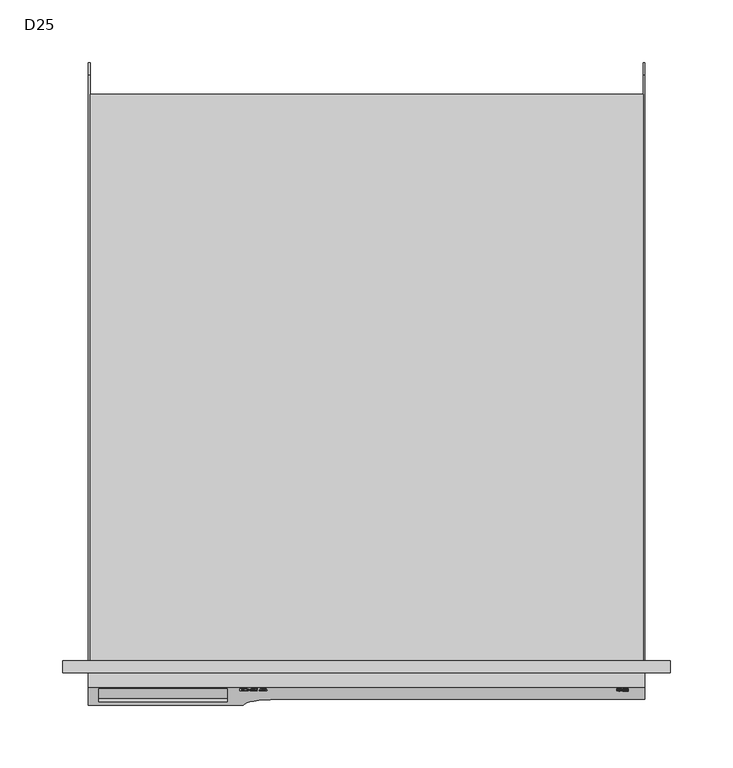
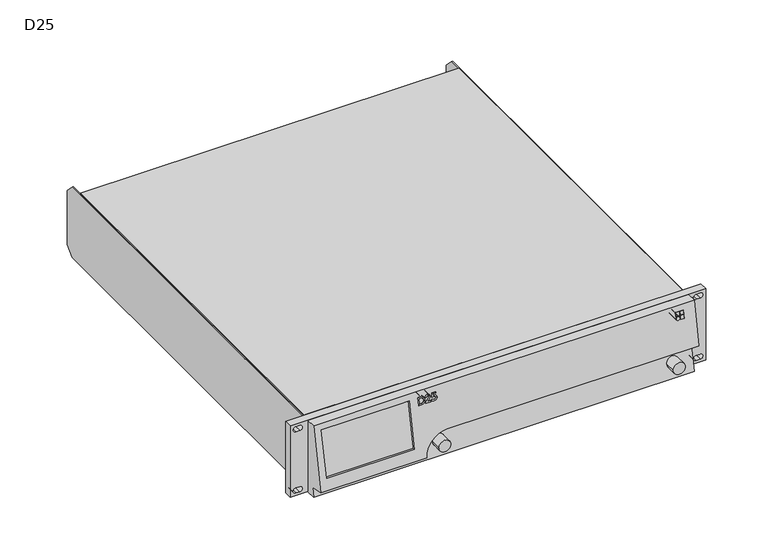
"""IFC4 building model written with IfcOpenShell, lengths in millimetres: proxy geometry, d&b D25 Amplifier : D25."""

from ifc_helpers import new_model, si_unit, point, frame, frame_2d, origin, origin_with_axes, place, context, project, spatial, polyline, circle_curve, ellipse_curve, trimmed, segment, composite_curve, outline, extrude, faceted_brep, source, transform, mapped, element, save
from ifc_brep_helpers import plane_surface, cylinder_surface, revolved_surface, advanced_brep


def d25_623b4818(model_context):
    return source(origin(), model_context, "Body", "SolidModel", [
        extrude(outline(polyline([(0.0, 241.669281), (88.1230012, 241.669281), (88.1230012, -241.7), (0.0, -241.7), (0.0, 241.669281)]), holes=[composite_curve([segment(polyline([(84.7610473, -235.3581466), (84.7610473, -230.8500595)]), True, "CONTINUOUS"), segment(trimmed(circle_curve(frame_2d((81.7558307, -230.8500595)), 3.0052166), [point((84.7610473, -230.8500595))], [point((78.7506142, -230.8500595))], True, "CARTESIAN"), True, "CONTINUOUS"), segment(polyline([(78.7506142, -230.8500595), (78.7506142, -235.3581466)]), True, "CONTINUOUS"), segment(trimmed(circle_curve(frame_2d((81.7558307, -235.3581466)), 3.0052166), [point((78.7506142, -235.3581466))], [point((84.7610473, -235.3581466))], True, "CARTESIAN"), True, "CONTINUOUS")], self_intersect=False), composite_curve([segment(trimmed(circle_curve(frame_2d((6.3671704, -230.8500595)), 3.0052166), [point((9.372387, -230.8500595))], [point((3.3619538, -230.8500595))], True, "CARTESIAN"), True, "CONTINUOUS"), segment(polyline([(3.3619538, -230.8500595), (3.3619538, -235.3581466)]), True, "CONTINUOUS"), segment(trimmed(circle_curve(frame_2d((6.3671704, -235.3581466)), 3.0052166), [point((3.3619538, -235.3581466))], [point((9.372387, -235.3581466))], True, "CARTESIAN"), True, "CONTINUOUS"), segment(polyline([(9.372387, -235.3581466), (9.372387, -230.8500595)]), True, "CONTINUOUS")], self_intersect=False), composite_curve([segment(trimmed(circle_curve(frame_2d((81.7558307, 230.8500595)), 3.0052166), [point((78.7506142, 230.8500595))], [point((84.7610473, 230.8500595))], True, "CARTESIAN"), True, "CONTINUOUS"), segment(polyline([(84.7610473, 230.8500595), (84.7610473, 235.3581466)]), True, "CONTINUOUS"), segment(trimmed(circle_curve(frame_2d((81.7558307, 235.3581466)), 3.0052166), [point((84.7610473, 235.3581466))], [point((78.7506142, 235.3581466))], True, "CARTESIAN"), True, "CONTINUOUS"), segment(polyline([(78.7506142, 235.3581466), (78.7506142, 230.8500595)]), True, "CONTINUOUS")], self_intersect=False), composite_curve([segment(polyline([(3.3619538, 235.3581466), (3.3619538, 230.8500595)]), True, "CONTINUOUS"), segment(trimmed(circle_curve(frame_2d((6.3671704, 230.8500595)), 3.0052166), [point((3.3619538, 230.8500595))], [point((9.372387, 230.8500595))], True, "CARTESIAN"), True, "CONTINUOUS"), segment(polyline([(9.372387, 230.8500595), (9.372387, 235.3581466)]), True, "CONTINUOUS"), segment(trimmed(circle_curve(frame_2d((6.3671704, 235.3581466)), 3.0052166), [point((9.372387, 235.3581466))], [point((3.3619538, 235.3581466))], True, "CARTESIAN"), True, "CONTINUOUS")], self_intersect=False)]), frame((0.0, -222.4500768, 0.0), z_axis=(0.0, 1.0, 0.0), x_axis=(0.0, 0.0, 1.0)), (0.0, 0.0, 1.0), 9.5),
        faceted_brep([(203.4248323, -217.4500768, 81.0323412), (203.4248323, -217.4500768, 76.7828242), (199.1753153, -217.4500768, 76.7828242), (199.1753153, -217.4500768, 81.0323412), (199.1753153, -235.2619921, 81.0323412), (203.4248323, -235.2619921, 81.0323412), (199.1753153, -236.0880124, 76.7828242), (203.4248323, -236.0880124, 76.7828242)], [[[0, 1, 2, 3]], [[0, 3, 4, 5]], [[3, 2, 6, 4]], [[2, 1, 7, 6]], [[1, 0, 5, 7]], [[5, 4, 6, 7]]]),
        faceted_brep([(208.2814232, -217.4500768, 81.0323412), (208.2814232, -217.4500768, 76.7828242), (204.0319062, -217.4500768, 76.7828242), (204.0319062, -217.4500768, 81.0323412), (204.0319062, -235.2619921, 81.0323412), (208.2814232, -235.2619921, 81.0323412), (204.0319062, -236.0880124, 76.7828242), (208.2814232, -236.0880124, 76.7828242)], [[[0, 1, 2, 3]], [[0, 3, 4, 5]], [[3, 2, 6, 4]], [[2, 1, 7, 6]], [[1, 0, 5, 7]], [[5, 4, 6, 7]]]),
        faceted_brep([(208.2814232, -217.4500768, 76.1757503), (208.2814232, -217.4500768, 71.9262333), (204.0319062, -217.4500768, 71.9262333), (204.0319062, -217.4500768, 76.1757503), (204.0319062, -236.2060153, 76.1757503), (208.2814232, -236.2060153, 76.1757503), (204.0319062, -237.0320357, 71.9262333), (208.2814232, -237.0320357, 71.9262333)], [[[0, 1, 2, 3]], [[0, 3, 4, 5]], [[3, 2, 6, 4]], [[2, 1, 7, 6]], [[1, 0, 5, 7]], [[5, 4, 6, 7]]]),
        advanced_brep(
        [(201.3000738, -217.4500768, 71.9262333), (201.3000738, -217.4500768, 76.1757503), (201.3000738, -236.2060153, 76.1757503), (201.3000738, -237.0320357, 71.9262333)],
        [
            (0, 1, circle_curve(frame((201.3000738, -217.4500768, 74.0509918), z_axis=(0.0, 1.0, 0.0), x_axis=(0.0, 0.0, 1.0)), 2.1247585)),
            (1, 0, circle_curve(frame((201.3000738, -217.4500768, 74.0509918), z_axis=(0.0, 1.0, 0.0), x_axis=(0.0, 0.0, 1.0)), 2.1247585)),
            (1, 2),
            (2, 3, ellipse_curve(frame((201.3000738, -236.6190255, 74.0509918), z_axis=(0.0, 0.9816272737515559, -0.1908085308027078), x_axis=(0.0, -0.19080853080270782, -0.9816272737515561)), 2.1645268, 2.1247585)),
            (3, 0),
            (3, 2, ellipse_curve(frame((201.3000738, -236.6190255, 74.0509918), z_axis=(0.0, 0.9816272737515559, -0.1908085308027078), x_axis=(0.0, -0.19080853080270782, -0.9816272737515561)), 2.1645268, 2.1247585)),
        ],
        [
            plane_surface(frame((188.8000738, -217.4500768, 81.0323412), z_axis=(0.0, 1.0, 0.0), x_axis=(1.0, 0.0, 0.0))),
            cylinder_surface(frame((201.3000738, -222.4500768, 74.0509918), z_axis=(0.0, -1.0, 0.0), x_axis=(0.0, 0.0, 1.0)), 2.1247585),
            plane_surface(frame((241.669281, -240.4740994, 54.2183055), z_axis=(0.0, -0.9816272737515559, 0.1908085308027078), x_axis=(-1.0, 0.0, 0.0))),
        ],
        [
            (0, [[1, 2]]),
            (1, [[-2, 3, 4, 5]]),
            (1, [[-1, -5, 6, -3]]),
            (2, [[-4, -6]]),
        ],
    ),
        advanced_brep(
        [(-97.4608925, -217.4500768, 81.2295429), (-97.4608925, -217.4500768, 72.2646398), (-100.7242907, -217.4500768, 72.2646398), (-100.7242907, -217.4500768, 81.2295429), (-97.4608925, -217.4500768, 73.7646398), (-97.4608925, -217.4500768, 79.7295429), (-99.2242907, -217.4500768, 79.7295429), (-99.2242907, -217.4500768, 73.7646398), (-97.4608925, -235.22366, 81.2295429), (-100.7242907, -235.22366, 81.2295429), (-100.7242907, -236.9662563, 72.2646398), (-97.4608925, -236.9662563, 72.2646398), (-97.4608925, -236.6746865, 73.7646398), (-99.2242907, -236.6746865, 73.7646398), (-99.2242907, -235.5152298, 79.7295429), (-97.4608925, -235.5152298, 79.7295429)],
        [
            (0, 1, circle_curve(frame((-97.4608925, -217.4500768, 76.7470913), z_axis=(0.0, 1.0, 0.0), x_axis=(1.0, 0.0, 0.0)), 4.4824516)),
            (1, 2),
            (2, 3),
            (3, 0),
            (4, 5, circle_curve(frame((-97.4608925, -217.4500768, 76.7470913), z_axis=(0.0, -1.0, 0.0), x_axis=(1.0, 0.0, 0.0)), 2.9824516)),
            (5, 6),
            (6, 7),
            (7, 4),
            (8, 9),
            (9, 10),
            (10, 11),
            (11, 8, ellipse_curve(frame((-97.4608925, -236.0949581, 76.7470913), z_axis=(0.0, -0.9816272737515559, 0.1908085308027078), x_axis=(0.0, -0.19080853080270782, -0.9816272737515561)), 4.5663478, 4.4824516)),
            (12, 13),
            (13, 14),
            (14, 15),
            (15, 12, ellipse_curve(frame((-97.4608925, -236.0949581, 76.7470913), z_axis=(0.0, 0.9816272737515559, -0.1908085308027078), x_axis=(0.0, 0.19080853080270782, 0.9816272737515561)), 3.0382729, 2.9824516)),
            (3, 9),
            (8, 0),
            (2, 10),
            (1, 11),
            (7, 13),
            (12, 4),
            (6, 14),
            (5, 15),
        ],
        [
            plane_surface(frame((188.8000738, -217.4500768, 81.0323412), z_axis=(0.0, 1.0, 0.0), x_axis=(1.0, 0.0, 0.0))),
            plane_surface(frame((241.669281, -240.4740994, 54.2183055), z_axis=(0.0, -0.9816272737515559, 0.1908085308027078), x_axis=(-1.0, 0.0, 0.0))),
            plane_surface(frame((-97.4608925, -243.2121608, 81.2295429), z_axis=(0.0, 0.0, 1.0), x_axis=(0.0, 1.0, 0.0))),
            plane_surface(frame((-100.7242907, -243.2121608, 81.2295429), z_axis=(-1.0, 0.0, 0.0), x_axis=(0.0, 1.0, 0.0))),
            plane_surface(frame((-100.7242907, -243.2121608, 72.2646398), z_axis=(0.0, 0.0, -1.0), x_axis=(0.0, 1.0, 0.0))),
            cylinder_surface(frame((-97.4608925, -222.4500768, 76.7470913), z_axis=(0.0, -1.0, 0.0), x_axis=(1.0, 0.0, 0.0)), 4.4824516),
            plane_surface(frame((-97.4608925, -243.2121608, 73.7646398), z_axis=(0.0, 0.0, 1.0), x_axis=(0.0, 1.0, 0.0))),
            plane_surface(frame((-99.2242907, -243.2121608, 73.7646398), z_axis=(1.0, 0.0, 0.0), x_axis=(0.0, 1.0, 0.0))),
            plane_surface(frame((-99.2242907, -243.2121608, 79.7295429), z_axis=(0.0, 0.0, -1.0), x_axis=(0.0, 1.0, 0.0))),
            revolved_surface(polyline([(-94.4784409, -217.4500768, 76.7470913), (-94.4784409, -236.6746865, 76.7470913)]), (-97.4608925, -222.4500768, 76.7470913), (0.0, 1.0, 0.0)),
        ],
        [
            (0, [[1, 2, 3, 4], [5, 6, 7, 8]]),
            (1, [[9, 10, 11, 12], [13, 14, 15, 16]]),
            (2, [[-4, 17, -9, 18]]),
            (3, [[-3, 19, -10, -17]]),
            (4, [[-2, 20, -11, -19]]),
            (5, [[-1, -18, -12, -20]]),
            (6, [[-8, 21, -13, 22]]),
            (7, [[-7, 23, -14, -21]]),
            (8, [[-6, 24, -15, -23]]),
            (9, [[-5, -22, -16, -24]]),
        ],
    ),
        advanced_brep(
        [(-79.7418817, -217.4500768, 81.2295429), (-79.7418817, -217.4500768, 79.7396384), (-83.2576893, -217.4500768, 79.7396384), (-83.3939563, -217.4500768, 78.1820996), (-81.8862875, -217.4500768, 78.1820996), (-80.8247509, -217.4500768, 72.6370972), (-85.3690063, -217.4500768, 72.8177445), (-85.2246333, -217.4500768, 74.4679354), (-81.3787673, -217.4500768, 74.0310361), (-81.8862875, -217.4500768, 76.6820996), (-85.030919, -217.4500768, 76.6820996), (-84.6330693, -217.4500768, 81.2295429), (-79.7418817, -235.22366, 81.2295429), (-84.6330693, -235.22366, 81.2295429), (-85.030919, -236.1075912, 76.6820996), (-81.8862875, -236.1075912, 76.6820996), (-81.3787673, -236.6229045, 74.0310361), (-85.2246333, -236.5379801, 74.4679354), (-85.3690063, -236.8587439, 72.8177445), (-80.8247509, -236.8938581, 72.6370972), (-81.8862875, -235.8160215, 78.1820996), (-83.3939563, -235.8160215, 78.1820996), (-83.2576893, -235.5132674, 79.7396384), (-79.7418817, -235.5132674, 79.7396384)],
        [
            (0, 1),
            (1, 2),
            (2, 3),
            (3, 4),
            (4, 5, circle_curve(frame((-81.8862875, -217.4500768, 75.307988), z_axis=(0.0, 1.0, 0.0), x_axis=(1.0, 0.0, 0.0)), 2.8741117)),
            (5, 6, circle_curve(frame((-82.8935468, -217.4500768, 77.8423136), z_axis=(0.0, 1.0, 0.0), x_axis=(1.0, 0.0, 0.0)), 5.6012672)),
            (6, 7),
            (7, 8, circle_curve(frame((-82.8935468, -217.4500768, 77.8423136), z_axis=(0.0, -1.0, 0.0), x_axis=(1.0, 0.0, 0.0)), 4.1012672)),
            (8, 9, circle_curve(frame((-81.8862875, -217.4500768, 75.307988), z_axis=(0.0, -1.0, 0.0), x_axis=(1.0, 0.0, 0.0)), 1.3741117)),
            (9, 10),
            (10, 11),
            (11, 0),
            (12, 13),
            (13, 14),
            (14, 15),
            (15, 16, ellipse_curve(frame((-81.8862875, -236.3746908, 75.307988), z_axis=(0.0, 0.9816272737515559, -0.1908085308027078), x_axis=(0.0, 0.19080853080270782, 0.9816272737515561)), 1.3998304, 1.3741117)),
            (16, 17, ellipse_curve(frame((-82.8935468, -235.882069, 77.8423136), z_axis=(0.0, 0.9816272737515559, -0.1908085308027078), x_axis=(0.0, 0.19080853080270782, 0.9816272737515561)), 4.178029, 4.1012672)),
            (17, 18),
            (18, 19, ellipse_curve(frame((-82.8935468, -235.882069, 77.8423136), z_axis=(0.0, -0.9816272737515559, 0.1908085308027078), x_axis=(0.0, -0.19080853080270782, -0.9816272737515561)), 5.7061039, 5.6012672)),
            (19, 20, ellipse_curve(frame((-81.8862875, -236.3746908, 75.307988), z_axis=(0.0, -0.9816272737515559, 0.1908085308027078), x_axis=(0.0, -0.19080853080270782, -0.9816272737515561)), 2.9279053, 2.8741117)),
            (20, 21),
            (21, 22),
            (22, 23),
            (23, 12),
            (11, 13),
            (12, 0),
            (10, 14),
            (9, 15),
            (8, 16),
            (7, 17),
            (6, 18),
            (5, 19),
            (4, 20),
            (3, 21),
            (2, 22),
            (1, 23),
        ],
        [
            plane_surface(frame((188.8000738, -217.4500768, 81.0323412), z_axis=(0.0, 1.0, 0.0), x_axis=(1.0, 0.0, 0.0))),
            plane_surface(frame((241.669281, -240.4740994, 54.2183055), z_axis=(0.0, -0.9816272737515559, 0.1908085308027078), x_axis=(-1.0, 0.0, 0.0))),
            plane_surface(frame((-79.7418817, -243.2121608, 81.2295429), z_axis=(0.0, 0.0, 1.0), x_axis=(0.0, 1.0, 0.0))),
            plane_surface(frame((-84.6330693, -243.2121608, 81.2295429), z_axis=(-0.9961946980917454, 0.0, 0.08715574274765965), x_axis=(0.0, 1.0, 0.0))),
            plane_surface(frame((-85.030919, -243.2121608, 76.6820996), z_axis=(0.0, 0.0, -1.0), x_axis=(0.0, 1.0, 0.0))),
            revolved_surface(polyline([(-80.5121758, -217.4500768, 75.307988), (-80.5121758, -236.64179038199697, 75.307988)]), (-81.8862875, -222.4500768, 75.307988), (0.0, 1.0, 0.0)),
            revolved_surface(polyline([(-78.7922796, -217.4500768, 77.8423136), (-78.7922796, -236.6792725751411, 77.8423136)]), (-82.8935468, -222.4500768, 77.8423136), (0.0, 1.0, 0.0)),
            plane_surface(frame((-85.2246333, -243.2121608, 74.4679354), z_axis=(-0.9961946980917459, 0.0, 0.08715574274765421), x_axis=(0.0, 1.0, 0.0))),
            cylinder_surface(frame((-82.8935468, -222.4500768, 77.8423136), z_axis=(0.0, -1.0, 0.0), x_axis=(1.0, 0.0, 0.0)), 5.6012672),
            cylinder_surface(frame((-81.8862875, -222.4500768, 75.307988), z_axis=(0.0, -1.0, 0.0), x_axis=(1.0, 0.0, 0.0)), 2.8741117),
            plane_surface(frame((-81.8862875, -243.2121608, 78.1820996), z_axis=(0.0, 0.0, 1.0), x_axis=(0.0, 1.0, 0.0))),
            plane_surface(frame((-83.3939563, -243.2121608, 78.1820996), z_axis=(0.996194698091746, 0.0, -0.0871557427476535), x_axis=(0.0, 1.0, 0.0))),
            plane_surface(frame((-83.2576893, -243.2121608, 79.7396384), z_axis=(0.0, 0.0, -1.0), x_axis=(0.0, 1.0, 0.0))),
            plane_surface(frame((-79.7418817, -243.2121608, 79.7396384), z_axis=(1.0, 0.0, 0.0), x_axis=(0.0, 1.0, 0.0))),
        ],
        [
            (0, [[1, 2, 3, 4, 5, 6, 7, 8, 9, 10, 11, 12]]),
            (1, [[13, 14, 15, 16, 17, 18, 19, 20, 21, 22, 23, 24]]),
            (2, [[-12, 25, -13, 26]]),
            (3, [[-11, 27, -14, -25]]),
            (4, [[-10, 28, -15, -27]]),
            (5, [[-9, 29, -16, -28]]),
            (6, [[-8, 30, -17, -29]]),
            (7, [[-7, 31, -18, -30]]),
            (8, [[-6, 32, -19, -31]]),
            (9, [[-5, 33, -20, -32]]),
            (10, [[-4, 34, -21, -33]]),
            (11, [[-3, 35, -22, -34]]),
            (12, [[-2, 36, -23, -35]]),
            (13, [[-1, -26, -24, -36]]),
        ],
    ),
        advanced_brep(
        [(-91.0190968, -217.4500768, 78.4841924), (-92.5190968, -217.4500768, 78.4841924), (-86.7692971, -217.4500768, 78.2864852), (-88.5761627, -217.4500768, 75.277538), (-90.3791647, -217.4500768, 73.7646398), (-86.762499, -217.4500768, 73.7646398), (-86.762499, -217.4500768, 72.2646398), (-92.5190968, -217.4500768, 72.2646398), (-91.245552, -217.4500768, 74.9957654), (-89.5403441, -217.4500768, 76.4266047), (-88.262499, -217.4500768, 78.4841924), (-91.0190968, -235.7573008, 78.4841924), (-88.262499, -235.7573008, 78.4841924), (-89.5403441, -236.1572543, 76.4266047), (-91.245552, -236.4353806, 74.9957654), (-92.5190968, -236.9662563, 72.2646398), (-86.762499, -236.9662563, 72.2646398), (-86.762499, -236.6746865, 73.7646398), (-90.3791647, -236.6746865, 73.7646398), (-88.5761627, -236.3806096, 75.277538), (-86.7692971, -235.795731, 78.2864852), (-92.5190968, -235.7573008, 78.4841924)],
        [
            (0, 1),
            (1, 2, circle_curve(frame((-89.6407979, -217.4500768, 78.4841924), z_axis=(0.0, 1.0, 0.0), x_axis=(1.0, 0.0, 0.0)), 2.8782989)),
            (2, 3, circle_curve(frame((-92.038255, -217.4500768, 79.403499), z_axis=(0.0, 1.0, 0.0), x_axis=(1.0, 0.0, 0.0)), 5.3860595)),
            (3, 4),
            (4, 5),
            (5, 6),
            (6, 7),
            (7, 8, circle_curve(frame((-88.8488952, -217.4500768, 72.2156913), z_axis=(0.0, 1.0, 0.0), x_axis=(1.0, 0.0, 0.0)), 3.6705279)),
            (8, 9),
            (9, 10, circle_curve(frame((-92.038255, -217.4500768, 79.403499), z_axis=(0.0, -1.0, 0.0), x_axis=(1.0, 0.0, 0.0)), 3.8860595)),
            (10, 0, circle_curve(frame((-89.6407979, -217.4500768, 78.4841924), z_axis=(0.0, -1.0, 0.0), x_axis=(1.0, 0.0, 0.0)), 1.3782989)),
            (11, 12, ellipse_curve(frame((-89.6407979, -235.7573008, 78.4841924), z_axis=(0.0, 0.9816272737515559, -0.1908085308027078), x_axis=(0.0, 0.19080853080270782, 0.9816272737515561)), 1.404096, 1.3782989)),
            (12, 13, ellipse_curve(frame((-92.038255, -235.5786061, 79.403499), z_axis=(0.0, 0.9816272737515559, -0.1908085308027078), x_axis=(0.0, 0.19080853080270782, 0.9816272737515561)), 3.9587933, 3.8860595)),
            (13, 14),
            (14, 15, ellipse_curve(frame((-88.8488952, -236.9757708, 72.2156913), z_axis=(0.0, -0.9816272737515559, 0.1908085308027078), x_axis=(0.0, -0.19080853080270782, -0.9816272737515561)), 3.7392277, 3.6705279)),
            (15, 16),
            (16, 17),
            (17, 18),
            (18, 19),
            (19, 20, ellipse_curve(frame((-92.038255, -235.5786061, 79.403499), z_axis=(0.0, -0.9816272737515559, 0.1908085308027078), x_axis=(0.0, -0.19080853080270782, -0.9816272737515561)), 5.4868682, 5.3860595)),
            (20, 21, ellipse_curve(frame((-89.6407979, -235.7573008, 78.4841924), z_axis=(0.0, -0.9816272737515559, 0.1908085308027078), x_axis=(0.0, -0.19080853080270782, -0.9816272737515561)), 2.9321709, 2.8782989)),
            (21, 11),
            (10, 12),
            (11, 0),
            (9, 13),
            (8, 14),
            (7, 15),
            (6, 16),
            (5, 17),
            (4, 18),
            (3, 19),
            (2, 20),
            (1, 21),
        ],
        [
            plane_surface(frame((188.8000738, -217.4500768, 81.0323412), z_axis=(0.0, 1.0, 0.0), x_axis=(1.0, 0.0, 0.0))),
            plane_surface(frame((241.669281, -240.4740994, 54.2183055), z_axis=(0.0, -0.9816272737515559, 0.1908085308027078), x_axis=(-1.0, 0.0, 0.0))),
            revolved_surface(polyline([(-88.26249899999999, -217.4500768, 78.4841924), (-88.26249899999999, -236.02521429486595, 78.4841924)]), (-89.6407979, -222.4500768, 78.4841924), (0.0, 1.0, 0.0)),
            revolved_surface(polyline([(-88.1521955, -217.4500768, 79.403499), (-88.1521955, -236.3339776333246, 79.403499)]), (-92.038255, -222.4500768, 79.403499), (0.0, 1.0, 0.0)),
            plane_surface(frame((-89.5403441, -243.2121608, 76.4266047), z_axis=(-0.6427876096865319, 0.0, 0.7660444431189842), x_axis=(0.0, 1.0, 0.0))),
            cylinder_surface(frame((-88.8488952, -222.4500768, 72.2156913), z_axis=(0.0, -1.0, 0.0), x_axis=(1.0, 0.0, 0.0)), 3.6705279),
            plane_surface(frame((-92.5190968, -243.2121608, 72.2646398), z_axis=(0.0, 0.0, -1.0), x_axis=(0.0, 1.0, 0.0))),
            plane_surface(frame((-86.762499, -243.2121608, 72.2646398), z_axis=(1.0, 0.0, 0.0), x_axis=(0.0, 1.0, 0.0))),
            plane_surface(frame((-86.762499, -243.2121608, 73.7646398), z_axis=(0.0, 0.0, 1.0), x_axis=(0.0, 1.0, 0.0))),
            plane_surface(frame((-90.3791647, -243.2121608, 73.7646398), z_axis=(0.6427876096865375, 0.0, -0.7660444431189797), x_axis=(0.0, 1.0, 0.0))),
            cylinder_surface(frame((-92.038255, -222.4500768, 79.403499), z_axis=(0.0, -1.0, 0.0), x_axis=(1.0, 0.0, 0.0)), 5.3860595),
            cylinder_surface(frame((-89.6407979, -222.4500768, 78.4841924), z_axis=(0.0, -1.0, 0.0), x_axis=(1.0, 0.0, 0.0)), 2.8782989),
            plane_surface(frame((-92.5190968, -243.2121608, 78.4841924), z_axis=(0.0, 0.0, -1.0), x_axis=(0.0, 1.0, 0.0))),
        ],
        [
            (0, [[1, 2, 3, 4, 5, 6, 7, 8, 9, 10, 11]]),
            (1, [[12, 13, 14, 15, 16, 17, 18, 19, 20, 21, 22]]),
            (2, [[-11, 23, -12, 24]]),
            (3, [[-10, 25, -13, -23]]),
            (4, [[-9, 26, -14, -25]]),
            (5, [[-8, 27, -15, -26]]),
            (6, [[-7, 28, -16, -27]]),
            (7, [[-6, 29, -17, -28]]),
            (8, [[-5, 30, -18, -29]]),
            (9, [[-4, 31, -19, -30]]),
            (10, [[-3, 32, -20, -31]]),
            (11, [[-2, 33, -21, -32]]),
            (12, [[-1, -24, -22, -33]]),
        ],
    ),
        extrude(outline(polyline([(220.169281, 238.0499232), (220.169281, -212.9500195), (-219.830704, -212.9500195), (-219.830704, 238.0499232), (220.169281, 238.0499232)])), origin_with_axes(), (0.0, 0.0, 1.0), 88.1),
        extrude(outline(polyline([(253.1125758, 86.6230011), (263.0499232, 76.6856537), (263.0499232, 10.0603027), (252.9896205, 0.0), (-212.5001259, 0.0), (-212.5001259, 86.6230011), (253.1125758, 86.6230011)])), frame((220.169281, 0.0, 0.0), z_axis=(1.0, 0.0, 0.0), x_axis=(0.0, 1.0, 0.0)), (0.0, 0.0, 1.0), 1.5),
        extrude(outline(polyline([(253.1125758, 86.6230011), (263.0499232, 76.6856537), (263.0499232, 10.0603027), (252.9896205, 0.0), (-212.5001259, 0.0), (-212.5001259, 86.6230011), (253.1125758, 86.6230011)])), frame((-221.330704, 0.0, 0.0), z_axis=(1.0, 0.0, 0.0), x_axis=(0.0, 1.0, 0.0)), (0.0, 0.0, 1.0), 1.5),
        advanced_brep(
        [(221.669281, -233.9300065, 0.0), (221.669281, -222.4500768, 0.0), (221.669281, -222.4500768, 88.1), (221.669281, -233.8881818, 88.1), (221.669281, -240.4740994, 54.2183055), (221.669281, -243.7107209, 37.5672896), (221.669281, -227.2496133, 34.3675826), (-221.330704, -248.2970612, 13.9725545), (-221.330704, -233.8881818, 88.1), (-221.330704, -222.4500768, 88.1), (-221.330704, -222.4500768, 0.0), (-221.330704, -233.9300065, 0.0), (-221.330704, -231.835926, 10.772842), (-98.1052859, -231.835926, 10.772842), (-98.1052859, -248.2970612, 13.9725545), (-71.7163139, -227.2494643, 34.3675536), (-66.7215312, -230.6015433, 17.1230322), (-80.7214072, -230.6015433, 17.1230322), (205.9993983, -230.5930751, 17.1665962), (191.9993057, -230.5930751, 17.1665962), (203.4248323, -222.4500768, 81.0323412), (199.1753153, -222.4500768, 81.0323412), (199.1753153, -222.4500768, 76.7828242), (203.4248323, -222.4500768, 76.7828242), (208.2814232, -222.4500768, 81.0323412), (204.0319062, -222.4500768, 81.0323412), (204.0319062, -222.4500768, 76.7828242), (208.2814232, -222.4500768, 76.7828242), (208.2814232, -222.4500768, 76.1757503), (204.0319062, -222.4500768, 76.1757503), (204.0319062, -222.4500768, 71.9262333), (208.2814232, -222.4500768, 71.9262333), (201.3000738, -222.4500768, 71.9262333), (201.3000738, -222.4500768, 76.1757503), (-97.4608925, -222.4500768, 81.2295429), (-100.7242907, -222.4500768, 81.2295429), (-100.7242907, -222.4500768, 72.2646398), (-97.4608925, -222.4500768, 72.2646398), (-79.7418817, -222.4500768, 81.2295429), (-84.6330693, -222.4500768, 81.2295429), (-85.030919, -222.4500768, 76.6820996), (-81.8862875, -222.4500768, 76.6820996), (-81.3787673, -222.4500768, 74.0310361), (-85.2246333, -222.4500768, 74.4679354), (-85.3690063, -222.4500768, 72.8177445), (-80.8247509, -222.4500768, 72.6370972), (-81.8862875, -222.4500768, 78.1820996), (-83.3939563, -222.4500768, 78.1820996), (-83.2576893, -222.4500768, 79.7396384), (-79.7418817, -222.4500768, 79.7396384), (-91.0190968, -222.4500768, 78.4841924), (-88.262499, -222.4500768, 78.4841924), (-89.5403441, -222.4500768, 76.4266047), (-91.245552, -222.4500768, 74.9957654), (-92.5190968, -222.4500768, 72.2646398), (-86.762499, -222.4500768, 72.2646398), (-86.762499, -222.4500768, 73.7646398), (-90.3791647, -222.4500768, 73.7646398), (-88.5761627, -222.4500768, 75.277538), (-86.7692971, -222.4500768, 78.2864852), (-92.5190968, -222.4500768, 78.4841924), (-123.9603245, -233.8881818, 88.1), (-71.7163139, -243.7107209, 37.5672896), (-110.6033137, -245.6264055, 27.7119215), (-212.999741, -245.6264055, 27.7119215), (-212.999741, -235.3217933, 80.7246895), (-123.9603245, -235.3217933, 80.7246895), (-110.6033137, -235.3217933, 80.7246895), (-110.6033137, -240.4740994, 54.2183055), (199.1753153, -235.2619921, 81.0323412), (203.4248323, -235.2619921, 81.0323412), (203.4248323, -236.0880124, 76.7828242), (199.1753153, -236.0880124, 76.7828242), (204.0319062, -235.2619921, 81.0323412), (208.2814232, -235.2619921, 81.0323412), (208.2814232, -236.0880124, 76.7828242), (204.0319062, -236.0880124, 76.7828242), (204.0319062, -236.2060153, 76.1757503), (208.2814232, -236.2060153, 76.1757503), (208.2814232, -237.0320357, 71.9262333), (204.0319062, -237.0320357, 71.9262333), (201.3000738, -236.2060153, 76.1757503), (201.3000738, -237.0320357, 71.9262333), (-100.7242907, -235.22366, 81.2295429), (-97.4608925, -235.22366, 81.2295429), (-97.4608925, -236.9662563, 72.2646398), (-100.7242907, -236.9662563, 72.2646398), (-84.6330693, -235.22366, 81.2295429), (-79.7418817, -235.22366, 81.2295429), (-79.7418817, -235.5132674, 79.7396384), (-83.2576893, -235.5132674, 79.7396384), (-83.3939563, -235.8160215, 78.1820996), (-81.8862875, -235.8160215, 78.1820996), (-80.8247509, -236.8938581, 72.6370972), (-85.3690063, -236.8587439, 72.8177445), (-85.2246333, -236.5379801, 74.4679354), (-81.3787673, -236.6229045, 74.0310361), (-81.8862875, -236.1075912, 76.6820996), (-85.030919, -236.1075912, 76.6820996), (-88.262499, -235.7573008, 78.4841924), (-91.0190968, -235.7573008, 78.4841924), (-92.5190968, -235.7573008, 78.4841924), (-86.7692971, -235.795731, 78.2864852), (-88.5761627, -236.3806096, 75.277538), (-90.3791647, -236.6746865, 73.7646398), (-86.762499, -236.6746865, 73.7646398), (-86.762499, -236.9662563, 72.2646398), (-92.5190968, -236.9662563, 72.2646398), (-91.245552, -236.4353806, 74.9957654), (-89.5403441, -236.1572543, 76.4266047), (-212.999741, -232.8677252, 80.2476681), (-110.6033137, -232.8677252, 80.2476681), (-110.6033137, -243.1723373, 27.2349002), (-212.999741, -243.1723373, 27.2349002), (-80.7214072, -243.2121608, 17.1230322), (-66.7215312, -243.2121608, 17.1230322), (191.9993057, -243.2121608, 17.1665962), (205.9993983, -243.2121608, 17.1665962)],
        [
            (0, 1),
            (1, 2),
            (2, 3),
            (3, 4),
            (4, 5),
            (5, 6),
            (6, 0),
            (7, 8),
            (8, 9),
            (9, 10),
            (10, 11),
            (11, 12),
            (12, 7),
            (12, 13),
            (13, 14),
            (14, 7),
            (11, 0),
            (6, 15),
            (15, 13, ellipse_curve(frame((-71.7163139, -232.3068078, 8.3504255), z_axis=(0.0, -0.9816262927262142, 0.1908135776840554), x_axis=(0.0, -0.19081357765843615, -0.9816262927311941)), 26.5041068, 26.5041068)),
            (16, 17, ellipse_curve(frame((-73.7214692, -230.6015433, 17.1230322), z_axis=(0.0, 0.9816262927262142, -0.1908135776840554), x_axis=(0.0, -0.19081357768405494, -0.9816262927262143)), 7.1309602, 6.999938)),
            (17, 16, ellipse_curve(frame((-73.7214692, -230.6015433, 17.1230322), z_axis=(0.0, 0.9816262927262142, -0.1908135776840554), x_axis=(0.0, -0.19081357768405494, -0.9816262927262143)), 7.1309602, 6.999938)),
            (18, 19, ellipse_curve(frame((198.999352, -230.5930751, 17.1665962), z_axis=(0.0, 0.9816262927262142, -0.1908135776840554), x_axis=(0.0, -0.19081357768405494, -0.9816262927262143)), 7.1310705, 7.0000463)),
            (19, 18, ellipse_curve(frame((198.999352, -230.5930751, 17.1665962), z_axis=(0.0, 0.9816262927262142, -0.1908135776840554), x_axis=(0.0, -0.19081357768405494, -0.9816262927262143)), 7.1310705, 7.0000463)),
            (10, 1),
            (9, 2),
            (20, 21),
            (21, 22),
            (22, 23),
            (23, 20),
            (24, 25),
            (25, 26),
            (26, 27),
            (27, 24),
            (28, 29),
            (29, 30),
            (30, 31),
            (31, 28),
            (32, 33, circle_curve(frame((201.3000738, -222.4500768, 74.0509918), z_axis=(0.0, -1.0, 0.0), x_axis=(0.0, 0.0, 1.0)), 2.1247585)),
            (33, 32, circle_curve(frame((201.3000738, -222.4500768, 74.0509918), z_axis=(0.0, -1.0, 0.0), x_axis=(0.0, 0.0, 1.0)), 2.1247585)),
            (34, 35),
            (35, 36),
            (36, 37),
            (37, 34, circle_curve(frame((-97.4608925, -222.4500768, 76.7470913), z_axis=(0.0, -1.0, 0.0), x_axis=(1.0, 0.0, 0.0)), 4.4824516)),
            (38, 39),
            (39, 40),
            (40, 41),
            (41, 42, circle_curve(frame((-81.8862875, -222.4500768, 75.307988), z_axis=(0.0, 1.0, 0.0), x_axis=(1.0, 0.0, 0.0)), 1.3741117)),
            (42, 43, circle_curve(frame((-82.8935468, -222.4500768, 77.8423136), z_axis=(0.0, 1.0, 0.0), x_axis=(1.0, 0.0, 0.0)), 4.1012672)),
            (43, 44),
            (44, 45, circle_curve(frame((-82.8935468, -222.4500768, 77.8423136), z_axis=(0.0, -1.0, 0.0), x_axis=(1.0, 0.0, 0.0)), 5.6012672)),
            (45, 46, circle_curve(frame((-81.8862875, -222.4500768, 75.307988), z_axis=(0.0, -1.0, 0.0), x_axis=(1.0, 0.0, 0.0)), 2.8741117)),
            (46, 47),
            (47, 48),
            (48, 49),
            (49, 38),
            (50, 51, circle_curve(frame((-89.6407979, -222.4500768, 78.4841924), z_axis=(0.0, 1.0, 0.0), x_axis=(1.0, 0.0, 0.0)), 1.3782989)),
            (51, 52, circle_curve(frame((-92.038255, -222.4500768, 79.403499), z_axis=(0.0, 1.0, 0.0), x_axis=(1.0, 0.0, 0.0)), 3.8860595)),
            (52, 53),
            (53, 54, circle_curve(frame((-88.8488952, -222.4500768, 72.2156913), z_axis=(0.0, -1.0, 0.0), x_axis=(1.0, 0.0, 0.0)), 3.6705279)),
            (54, 55),
            (55, 56),
            (56, 57),
            (57, 58),
            (58, 59, circle_curve(frame((-92.038255, -222.4500768, 79.403499), z_axis=(0.0, -1.0, 0.0), x_axis=(1.0, 0.0, 0.0)), 5.3860595)),
            (59, 60, circle_curve(frame((-89.6407979, -222.4500768, 78.4841924), z_axis=(0.0, -1.0, 0.0), x_axis=(1.0, 0.0, 0.0)), 2.8782989)),
            (60, 50),
            (8, 61),
            (61, 3),
            (14, 62, circle_curve(frame((-71.7163139, -248.7679305, 11.5501356), z_axis=(0.0, 0.9816272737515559, -0.1908085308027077), x_axis=(1.0, 0.0, 0.0)), 26.5041068)),
            (62, 5),
            (63, 64),
            (64, 65),
            (65, 66),
            (66, 67),
            (67, 68),
            (68, 63),
            (69, 70),
            (70, 71),
            (71, 72),
            (72, 69),
            (73, 74),
            (74, 75),
            (75, 76),
            (76, 73),
            (77, 78),
            (78, 79),
            (79, 80),
            (80, 77),
            (81, 82, ellipse_curve(frame((201.3000738, -236.6190255, 74.0509918), z_axis=(0.0, 0.981627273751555, -0.19080853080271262), x_axis=(0.0, -0.19080853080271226, -0.981627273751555)), 2.1645268, 2.1247585)),
            (82, 81, ellipse_curve(frame((201.3000738, -236.6190255, 74.0509918), z_axis=(0.0, 0.981627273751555, -0.19080853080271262), x_axis=(0.0, -0.19080853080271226, -0.981627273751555)), 2.1645268, 2.1247585)),
            (83, 84),
            (84, 85, ellipse_curve(frame((-97.4608925, -236.0949581, 76.7470913), z_axis=(0.0, 0.981627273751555, -0.19080853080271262), x_axis=(0.0, -0.19080853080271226, -0.981627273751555)), 4.5663478, 4.4824516)),
            (85, 86),
            (86, 83),
            (87, 88),
            (88, 89),
            (89, 90),
            (90, 91),
            (91, 92),
            (92, 93, ellipse_curve(frame((-81.8862875, -236.3746908, 75.307988), z_axis=(0.0, 0.981627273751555, -0.19080853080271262), x_axis=(0.0, -0.19080853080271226, -0.981627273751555)), 2.9279053, 2.8741117)),
            (93, 94, ellipse_curve(frame((-82.8935468, -235.882069, 77.8423136), z_axis=(0.0, 0.981627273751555, -0.19080853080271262), x_axis=(0.0, -0.19080853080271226, -0.981627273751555)), 5.7061039, 5.6012672)),
            (94, 95),
            (95, 96, ellipse_curve(frame((-82.8935468, -235.882069, 77.8423136), z_axis=(0.0, -0.981627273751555, 0.19080853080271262), x_axis=(0.0, 0.19080853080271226, 0.981627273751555)), 4.178029, 4.1012672)),
            (96, 97, ellipse_curve(frame((-81.8862875, -236.3746908, 75.307988), z_axis=(0.0, -0.981627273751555, 0.19080853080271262), x_axis=(0.0, 0.19080853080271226, 0.981627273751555)), 1.3998304, 1.3741117)),
            (97, 98),
            (98, 87),
            (99, 100, ellipse_curve(frame((-89.6407979, -235.7573008, 78.4841924), z_axis=(0.0, -0.981627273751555, 0.19080853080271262), x_axis=(0.0, 0.19080853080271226, 0.981627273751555)), 1.404096, 1.3782989)),
            (100, 101),
            (101, 102, ellipse_curve(frame((-89.6407979, -235.7573008, 78.4841924), z_axis=(0.0, 0.981627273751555, -0.19080853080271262), x_axis=(0.0, -0.19080853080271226, -0.981627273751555)), 2.9321709, 2.8782989)),
            (102, 103, ellipse_curve(frame((-92.038255, -235.5786061, 79.403499), z_axis=(0.0, 0.981627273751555, -0.19080853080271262), x_axis=(0.0, -0.19080853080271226, -0.981627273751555)), 5.4868682, 5.3860595)),
            (103, 104),
            (104, 105),
            (105, 106),
            (106, 107),
            (107, 108, ellipse_curve(frame((-88.8488952, -236.9757708, 72.2156913), z_axis=(0.0, 0.981627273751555, -0.19080853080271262), x_axis=(0.0, -0.19080853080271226, -0.981627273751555)), 3.7392277, 3.6705279)),
            (108, 109),
            (109, 99, ellipse_curve(frame((-92.038255, -235.5786061, 79.403499), z_axis=(0.0, -0.981627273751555, 0.19080853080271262), x_axis=(0.0, 0.19080853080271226, 0.981627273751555)), 3.9587933, 3.8860595)),
            (15, 62),
            (65, 110),
            (110, 111),
            (111, 67),
            (63, 112),
            (112, 113),
            (113, 64),
            (111, 112),
            (110, 113),
            (114, 115, circle_curve(frame((-73.7214692, -243.2121608, 17.1230322), z_axis=(0.0, -1.0, 0.0), x_axis=(1.0, 0.0, 0.0)), 6.999938)),
            (115, 114, circle_curve(frame((-73.7214692, -243.2121608, 17.1230322), z_axis=(0.0, -1.0, 0.0), x_axis=(1.0, 0.0, 0.0)), 6.999938)),
            (114, 17),
            (16, 115),
            (116, 117, circle_curve(frame((198.999352, -243.2121608, 17.1665962), z_axis=(0.0, -1.0, 0.0), x_axis=(1.0, 0.0, 0.0)), 7.0000463)),
            (117, 116, circle_curve(frame((198.999352, -243.2121608, 17.1665962), z_axis=(0.0, -1.0, 0.0), x_axis=(1.0, 0.0, 0.0)), 7.0000463)),
            (116, 19),
            (18, 117),
            (20, 70),
            (69, 21),
            (72, 22),
            (71, 23),
            (24, 74),
            (73, 25),
            (76, 26),
            (75, 27),
            (28, 78),
            (77, 29),
            (80, 30),
            (79, 31),
            (32, 82),
            (81, 33),
            (34, 84),
            (83, 35),
            (86, 36),
            (85, 37),
            (38, 88),
            (87, 39),
            (98, 40),
            (97, 41),
            (96, 42),
            (95, 43),
            (94, 44),
            (93, 45),
            (92, 46),
            (91, 47),
            (90, 48),
            (89, 49),
            (50, 100),
            (99, 51),
            (109, 52),
            (108, 53),
            (107, 54),
            (106, 55),
            (105, 56),
            (104, 57),
            (103, 58),
            (102, 59),
            (101, 60),
        ],
        [
            plane_surface(frame((221.669281, -247.5613739, 13.8295517), z_axis=(1.0, 0.0, 0.0), x_axis=(0.0, 0.981627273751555, -0.19080853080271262))),
            plane_surface(frame((-221.330704, -247.5613739, 13.8295517), z_axis=(-1.0, 0.0, 0.0), x_axis=(0.0, -0.981627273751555, 0.19080853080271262))),
            plane_surface(frame((221.669281, -248.2970612, 13.9725545), z_axis=(0.0, -0.19080853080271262, -0.981627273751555), x_axis=(-1.0, 0.0, 0.0))),
            plane_surface(frame((221.669281, -231.835926, 10.772842), z_axis=(0.0, -0.9816262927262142, 0.1908135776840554), x_axis=(-1.0, 0.0, 0.0))),
            plane_surface(frame((221.669281, -233.9300065, 0.0), z_axis=(0.0, 0.0, -1.0), x_axis=(-1.0, 0.0, 0.0))),
            plane_surface(frame((221.669281, -222.4500768, 0.0), z_axis=(0.0, 1.0, 0.0), x_axis=(-1.0, 0.0, 0.0))),
            plane_surface(frame((221.669281, -222.4500768, 88.1), z_axis=(0.0, 0.0, 1.0), x_axis=(-1.0, 0.0, 0.0))),
            plane_surface(frame((221.669281, -233.8881818, 88.1), z_axis=(0.0, -0.981627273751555, 0.19080853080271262), x_axis=(-1.0, 0.0, 0.0))),
            revolved_surface(polyline([(-45.2122071, -248.7679305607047, 11.55013559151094), (-45.2122071, -232.30667397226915, 8.3503995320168)]), (-71.7163139, -232.306823, 8.3504285), (0.0, -0.9816272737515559, 0.1908085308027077)),
            plane_surface(frame((221.669281, -265.7785165, 41.8568237), z_axis=(0.0, -0.19080853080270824, -0.9816272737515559), x_axis=(0.0, 0.9816272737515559, -0.19080853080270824))),
            plane_surface(frame((-110.6033137, -235.3217933, 80.7246895), z_axis=(0.0, -0.19080853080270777, -0.981627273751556), x_axis=(0.0, 0.981627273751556, -0.19080853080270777))),
            plane_surface(frame((-110.6033137, -245.6264055, 27.7119215), z_axis=(0.0, 0.19080853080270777, 0.981627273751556), x_axis=(0.0, -0.981627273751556, 0.19080853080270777))),
            plane_surface(frame((-110.6033137, -235.3217933, 80.7246895), z_axis=(-1.0, 0.0, 0.0), x_axis=(0.0, -0.1908085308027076, -0.981627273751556))),
            plane_surface(frame((-110.6033137, -232.8677252, 80.2476681), z_axis=(0.0, -0.981627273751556, 0.1908085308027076), x_axis=(0.0, -0.1908085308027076, -0.981627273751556))),
            plane_surface(frame((-212.999741, -232.8677252, 80.2476681), z_axis=(1.0, 0.0, 0.0), x_axis=(0.0, -0.1908085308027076, -0.981627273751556))),
            plane_surface(frame((-66.7215312, -243.2121608, 17.1230322), z_axis=(0.0, -1.0, 0.0), x_axis=(0.0, 0.0, 1.0))),
            cylinder_surface(frame((-73.7214692, -222.4500768, 17.1230322), z_axis=(0.0, -1.0, 0.0), x_axis=(1.0, 0.0, 0.0)), 6.999938),
            plane_surface(frame((205.9993983, -243.2121608, 17.1665962), z_axis=(0.0, -1.0, 0.0), x_axis=(0.0, 0.0, 1.0))),
            cylinder_surface(frame((198.999352, -222.4500768, 17.1665962), z_axis=(0.0, -1.0, 0.0), x_axis=(1.0, 0.0, 0.0)), 7.0000463),
            plane_surface(frame((203.4248323, -243.2121608, 81.0323412), z_axis=(0.0, 0.0, -1.0), x_axis=(0.0, 1.0, 0.0))),
            plane_surface(frame((199.1753153, -243.2121608, 81.0323412), z_axis=(1.0, 0.0, 0.0), x_axis=(0.0, 1.0, 0.0))),
            plane_surface(frame((199.1753153, -243.2121608, 76.7828242), z_axis=(0.0, 0.0, 1.0), x_axis=(0.0, 1.0, 0.0))),
            plane_surface(frame((203.4248323, -243.2121608, 76.7828242), z_axis=(-1.0, 0.0, 0.0), x_axis=(0.0, 1.0, 0.0))),
            plane_surface(frame((208.2814232, -243.2121608, 81.0323412), z_axis=(0.0, 0.0, -1.0), x_axis=(0.0, 1.0, 0.0))),
            plane_surface(frame((204.0319062, -243.2121608, 81.0323412), z_axis=(1.0, 0.0, 0.0), x_axis=(0.0, 1.0, 0.0))),
            plane_surface(frame((204.0319062, -243.2121608, 76.7828242), z_axis=(0.0, 0.0, 1.0), x_axis=(0.0, 1.0, 0.0))),
            plane_surface(frame((208.2814232, -243.2121608, 76.7828242), z_axis=(-1.0, 0.0, 0.0), x_axis=(0.0, 1.0, 0.0))),
            plane_surface(frame((208.2814232, -243.2121608, 76.1757503), z_axis=(0.0, 0.0, -1.0), x_axis=(0.0, 1.0, 0.0))),
            plane_surface(frame((204.0319062, -243.2121608, 76.1757503), z_axis=(1.0, 0.0, 0.0), x_axis=(0.0, 1.0, 0.0))),
            plane_surface(frame((204.0319062, -243.2121608, 71.9262333), z_axis=(0.0, 0.0, 1.0), x_axis=(0.0, 1.0, 0.0))),
            plane_surface(frame((208.2814232, -243.2121608, 71.9262333), z_axis=(-1.0, 0.0, 0.0), x_axis=(0.0, 1.0, 0.0))),
            revolved_surface(polyline([(201.3000738, -237.0320357, 76.1757503), (201.3000738, -222.4500768, 76.1757503)]), (201.3000738, -222.4500768, 74.0509918), (0.0, -1.0, 0.0)),
            plane_surface(frame((-97.4608925, -243.2121608, 81.2295429), z_axis=(0.0, 0.0, -1.0), x_axis=(0.0, 1.0, 0.0))),
            plane_surface(frame((-100.7242907, -243.2121608, 81.2295429), z_axis=(1.0, 0.0, 0.0), x_axis=(0.0, 1.0, 0.0))),
            plane_surface(frame((-100.7242907, -243.2121608, 72.2646398), z_axis=(0.0, 0.0, 1.0), x_axis=(0.0, 1.0, 0.0))),
            revolved_surface(polyline([(-92.9784409, -236.9662563, 76.7470913), (-92.9784409, -222.4500768, 76.7470913)]), (-97.4608925, -222.4500768, 76.7470913), (0.0, -1.0, 0.0)),
            plane_surface(frame((-79.7418817, -243.2121608, 81.2295429), z_axis=(0.0, 0.0, -1.0), x_axis=(0.0, 1.0, 0.0))),
            plane_surface(frame((-84.6330693, -243.2121608, 81.2295429), z_axis=(0.9961946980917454, 0.0, -0.08715574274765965), x_axis=(0.0, 1.0, 0.0))),
            plane_surface(frame((-85.030919, -243.2121608, 76.6820996), z_axis=(0.0, 0.0, 1.0), x_axis=(0.0, 1.0, 0.0))),
            cylinder_surface(frame((-81.8862875, -222.4500768, 75.307988), z_axis=(0.0, 1.0, 0.0), x_axis=(1.0, 0.0, 0.0)), 1.3741117),
            cylinder_surface(frame((-82.8935468, -222.4500768, 77.8423136), z_axis=(0.0, 1.0, 0.0), x_axis=(1.0, 0.0, 0.0)), 4.1012672),
            plane_surface(frame((-85.2246333, -243.2121608, 74.4679354), z_axis=(0.9961946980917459, 0.0, -0.08715574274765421), x_axis=(0.0, 1.0, 0.0))),
            revolved_surface(polyline([(-77.2922796, -236.97084230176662, 77.8423136), (-77.2922796, -222.4500768, 77.8423136)]), (-82.8935468, -222.4500768, 77.8423136), (0.0, -1.0, 0.0)),
            revolved_surface(polyline([(-79.0121758, -236.93336010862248, 75.307988), (-79.0121758, -222.4500768, 75.307988)]), (-81.8862875, -222.4500768, 75.307988), (0.0, -1.0, 0.0)),
            plane_surface(frame((-81.8862875, -243.2121608, 78.1820996), z_axis=(0.0, 0.0, -1.0), x_axis=(0.0, 1.0, 0.0))),
            plane_surface(frame((-83.3939563, -243.2121608, 78.1820996), z_axis=(-0.996194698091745, 0.0, 0.08715574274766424), x_axis=(0.0, 1.0, 0.0))),
            plane_surface(frame((-83.2576893, -243.2121608, 79.7396384), z_axis=(0.0, 0.0, 1.0), x_axis=(0.0, 1.0, 0.0))),
            plane_surface(frame((-79.7418817, -243.2121608, 79.7396384), z_axis=(-1.0, 0.0, 0.0), x_axis=(0.0, 1.0, 0.0))),
            cylinder_surface(frame((-89.6407979, -222.4500768, 78.4841924), z_axis=(0.0, 1.0, 0.0), x_axis=(1.0, 0.0, 0.0)), 1.3782989),
            cylinder_surface(frame((-92.038255, -222.4500768, 79.403499), z_axis=(0.0, 1.0, 0.0), x_axis=(1.0, 0.0, 0.0)), 3.8860595),
            plane_surface(frame((-89.5403441, -243.2121608, 76.4266047), z_axis=(0.6427876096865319, 0.0, -0.7660444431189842), x_axis=(0.0, 1.0, 0.0))),
            revolved_surface(polyline([(-85.1783673, -237.6892473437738, 72.2156913), (-85.1783673, -222.4500768, 72.2156913)]), (-88.8488952, -222.4500768, 72.2156913), (0.0, -1.0, 0.0)),
            plane_surface(frame((-92.5190968, -243.2121608, 72.2646398), z_axis=(0.0, 0.0, 1.0), x_axis=(0.0, 1.0, 0.0))),
            plane_surface(frame((-86.762499, -243.2121608, 72.2646398), z_axis=(-1.0, 0.0, 0.0), x_axis=(0.0, 1.0, 0.0))),
            plane_surface(frame((-86.762499, -243.2121608, 73.7646398), z_axis=(0.0, 0.0, -1.0), x_axis=(0.0, 1.0, 0.0))),
            plane_surface(frame((-90.3791647, -243.2121608, 73.7646398), z_axis=(-0.6427876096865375, 0.0, 0.7660444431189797), x_axis=(0.0, 1.0, 0.0))),
            revolved_surface(polyline([(-86.6521955, -236.62554735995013, 79.403499), (-86.6521955, -222.4500768, 79.403499)]), (-92.038255, -222.4500768, 79.403499), (0.0, -1.0, 0.0)),
            revolved_surface(polyline([(-86.76249899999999, -236.31678402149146, 78.4841924), (-86.76249899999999, -222.4500768, 78.4841924)]), (-89.6407979, -222.4500768, 78.4841924), (0.0, -1.0, 0.0)),
            plane_surface(frame((-92.5190968, -243.2121608, 78.4841924), z_axis=(0.0, 0.0, 1.0), x_axis=(0.0, 1.0, 0.0))),
        ],
        [
            (0, [[1, 2, 3, 4, 5, 6, 7]]),
            (1, [[8, 9, 10, 11, 12, 13]]),
            (2, [[-13, 14, 15, 16]]),
            (3, [[17, -7, 18, 19, -14, -12], [20, 21], [22, 23]]),
            (4, [[-1, -17, -11, 24]]),
            (5, [[-2, -24, -10, 25], [26, 27, 28, 29], [30, 31, 32, 33], [34, 35, 36, 37], [38, 39], [40, 41, 42, 43], [44, 45, 46, 47, 48, 49, 50, 51, 52, 53, 54, 55], [56, 57, 58, 59, 60, 61, 62, 63, 64, 65, 66]]),
            (6, [[-3, -25, -9, 67, 68]]),
            (7, [[-8, -16, 69, 70, -5, -4, -68, -67], [71, 72, 73, 74, 75, 76], [77, 78, 79, 80], [81, 82, 83, 84], [85, 86, 87, 88], [89, 90], [91, 92, 93, 94], [95, 96, 97, 98, 99, 100, 101, 102, 103, 104, 105, 106], [107, 108, 109, 110, 111, 112, 113, 114, 115, 116, 117]]),
            (8, [[-19, 118, -69, -15]]),
            (9, [[-18, -6, -70, -118]]),
            (10, [[119, 120, 121, -74, -73]]),
            (11, [[122, 123, 124, -71]]),
            (12, [[-121, 125, -122, -76, -75]]),
            (13, [[-120, 126, -123, -125]]),
            (14, [[-119, -72, -124, -126]]),
            (15, [[127, 128]]),
            (16, [[-127, 129, -20, 130]]),
            (16, [[-128, -130, -21, -129]]),
            (17, [[131, 132]]),
            (18, [[-131, 133, -22, 134]]),
            (18, [[-132, -134, -23, -133]]),
            (19, [[135, -77, 136, -26]]),
            (20, [[-136, -80, 137, -27]]),
            (21, [[-137, -79, 138, -28]]),
            (22, [[-135, -29, -138, -78]]),
            (23, [[139, -81, 140, -30]]),
            (24, [[-140, -84, 141, -31]]),
            (25, [[-141, -83, 142, -32]]),
            (26, [[-139, -33, -142, -82]]),
            (27, [[143, -85, 144, -34]]),
            (28, [[-144, -88, 145, -35]]),
            (29, [[-145, -87, 146, -36]]),
            (30, [[-143, -37, -146, -86]]),
            (31, [[147, -89, 148, -38]]),
            (31, [[-147, -39, -148, -90]]),
            (32, [[149, -91, 150, -40]]),
            (33, [[-150, -94, 151, -41]]),
            (34, [[-151, -93, 152, -42]]),
            (35, [[-149, -43, -152, -92]]),
            (36, [[153, -95, 154, -44]]),
            (37, [[-154, -106, 155, -45]]),
            (38, [[-155, -105, 156, -46]]),
            (39, [[-156, -104, 157, -47]]),
            (40, [[-157, -103, 158, -48]]),
            (41, [[-158, -102, 159, -49]]),
            (42, [[-159, -101, 160, -50]]),
            (43, [[-160, -100, 161, -51]]),
            (44, [[-161, -99, 162, -52]]),
            (45, [[-162, -98, 163, -53]]),
            (46, [[-163, -97, 164, -54]]),
            (47, [[-153, -55, -164, -96]]),
            (48, [[165, -107, 166, -56]]),
            (49, [[-166, -117, 167, -57]]),
            (50, [[-167, -116, 168, -58]]),
            (51, [[-168, -115, 169, -59]]),
            (52, [[-169, -114, 170, -60]]),
            (53, [[-170, -113, 171, -61]]),
            (54, [[-171, -112, 172, -62]]),
            (55, [[-172, -111, 173, -63]]),
            (56, [[-173, -110, 174, -64]]),
            (57, [[-174, -109, 175, -65]]),
            (58, [[-165, -66, -175, -108]]),
        ],
    ),
        advanced_brep(
        [(-97.4608925, -222.4500768, 73.7646398), (-99.2242907, -222.4500768, 73.7646398), (-99.2242907, -222.4500768, 79.7295429), (-97.4608925, -222.4500768, 79.7295429), (-99.2242907, -236.6746865, 73.7646398), (-97.4608925, -236.6746865, 73.7646398), (-97.4608925, -235.5152298, 79.7295429), (-99.2242907, -235.5152298, 79.7295429)],
        [
            (0, 1),
            (1, 2),
            (2, 3),
            (3, 0, circle_curve(frame((-97.4608925, -222.4500768, 76.7470913), z_axis=(0.0, 1.0, 0.0), x_axis=(1.0, 0.0, 0.0)), 2.9824516)),
            (4, 5),
            (5, 6, ellipse_curve(frame((-97.4608925, -236.0949581, 76.7470913), z_axis=(0.0, -0.981627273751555, 0.19080853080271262), x_axis=(0.0, 0.19080853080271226, 0.981627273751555)), 3.0382729, 2.9824516)),
            (6, 7),
            (7, 4),
            (0, 5),
            (4, 1),
            (7, 2),
            (6, 3),
        ],
        [
            plane_surface(frame((221.669281, -222.4500768, 0.0), z_axis=(0.0, 1.0, 0.0), x_axis=(-1.0, 0.0, 0.0))),
            plane_surface(frame((221.669281, -233.8881818, 88.1), z_axis=(0.0, -0.981627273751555, 0.19080853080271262), x_axis=(-1.0, 0.0, 0.0))),
            plane_surface(frame((-97.4608925, -243.2121608, 73.7646398), z_axis=(0.0, 0.0, -1.0), x_axis=(0.0, 1.0, 0.0))),
            plane_surface(frame((-99.2242907, -243.2121608, 73.7646398), z_axis=(-1.0, 0.0, 0.0), x_axis=(0.0, 1.0, 0.0))),
            plane_surface(frame((-99.2242907, -243.2121608, 79.7295429), z_axis=(0.0, 0.0, 1.0), x_axis=(0.0, 1.0, 0.0))),
            cylinder_surface(frame((-97.4608925, -222.4500768, 76.7470913), z_axis=(0.0, 1.0, 0.0), x_axis=(1.0, 0.0, 0.0)), 2.9824516),
        ],
        [
            (0, [[1, 2, 3, 4]]),
            (1, [[5, 6, 7, 8]]),
            (2, [[9, -5, 10, -1]]),
            (3, [[-10, -8, 11, -2]]),
            (4, [[-11, -7, 12, -3]]),
            (5, [[-9, -4, -12, -6]]),
        ],
    ),
    ])


if __name__ == "__main__":
    model = new_model("IFC4")
    model_context = context("Model", 3, world=origin())
    ifc_project = project(units=[si_unit("LENGTHUNIT", "METRE", prefix="MILLI")], contexts=[model_context])
    site = spatial("IfcSite", under=ifc_project)
    building = spatial("IfcBuilding", under=site)
    placement = place(None, origin())
    d25_shape = d25_623b4818(model_context)
    element("IfcBuildingElementProxy", 1, Name="d&b D25 Amplifier : D25", ObjectType="d&b D25 Amplifier : D25", at=placement, inside=building, context=model_context, shape_type="MappedRepresentation", body=[
        mapped(d25_shape, transform((0.0, 0.0, 0.0), x_axis=(1.0, 0.0, 0.0), y_axis=(0.0, 1.0, 0.0), z_axis=(0.0, 0.0, 1.0))),
    ])
    save(model, "model.ifc")
